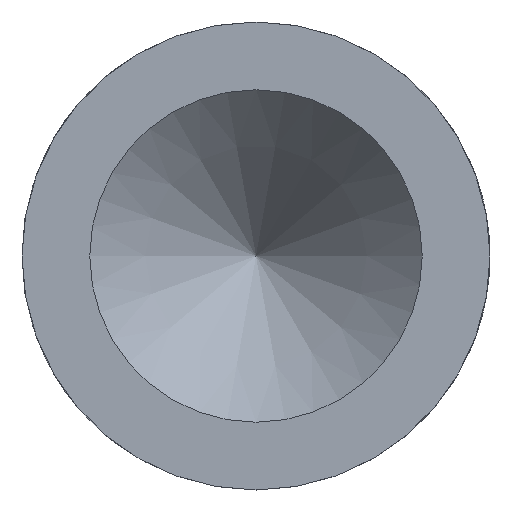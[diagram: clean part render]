
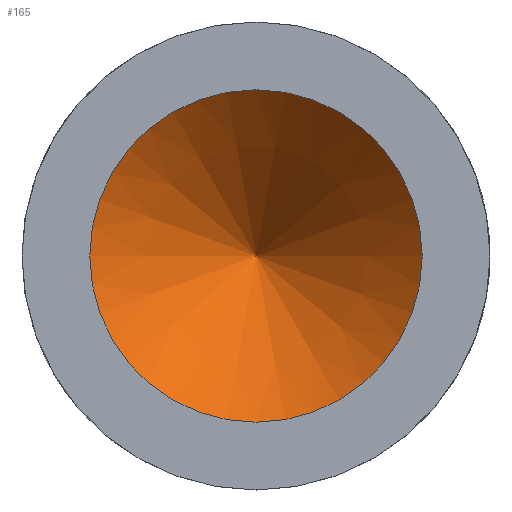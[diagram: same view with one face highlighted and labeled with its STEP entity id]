
A CAD part, left-side view. The second image highlights one B-rep face of the part: STEP entity #165.
In plain terms, the highlighted conical face has half-angle 45 degrees and reference radius 0.203 mm.
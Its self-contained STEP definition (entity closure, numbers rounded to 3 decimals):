
#15=CONICAL_SURFACE($,#189,0.203,45.);
#34=CIRCLE($,#190,0.406);
#45=FACE_OUTER_BOUND($,#62,.T.);
#62=EDGE_LOOP($,(#146));
#94=VERTEX_POINT($,#288);
#112=EDGE_CURVE($,#94,#94,#34,.T.);
#146=ORIENTED_EDGE($,*,*,#112,.F.);
#165=ADVANCED_FACE($,(#45),#15,.F.);
#189=AXIS2_PLACEMENT_3D($,#287,#240,#241);
#190=AXIS2_PLACEMENT_3D($,#289,#242,#243);
#240=DIRECTION('center_axis',(-1.,0.,0.));
#241=DIRECTION('ref_axis',(0.,1.,0.));
#242=DIRECTION('center_axis',(1.,0.,0.));
#243=DIRECTION('ref_axis',(0.,1.,0.));
#287=CARTESIAN_POINT('Origin',(0.203,0.,
0.));
#288=CARTESIAN_POINT('',(0.,0.406,0.));
#289=CARTESIAN_POINT('Origin',(0.,0.,
0.));
